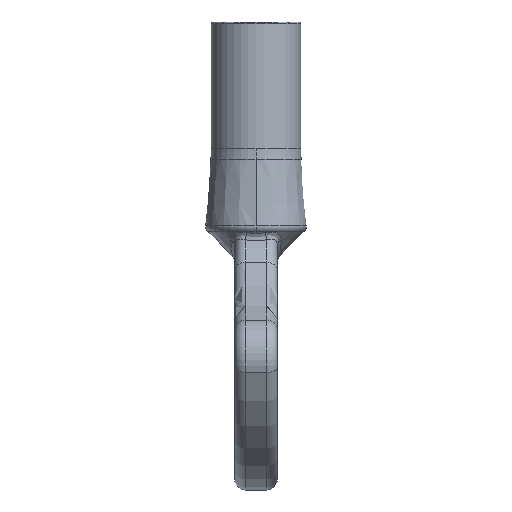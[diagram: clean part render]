
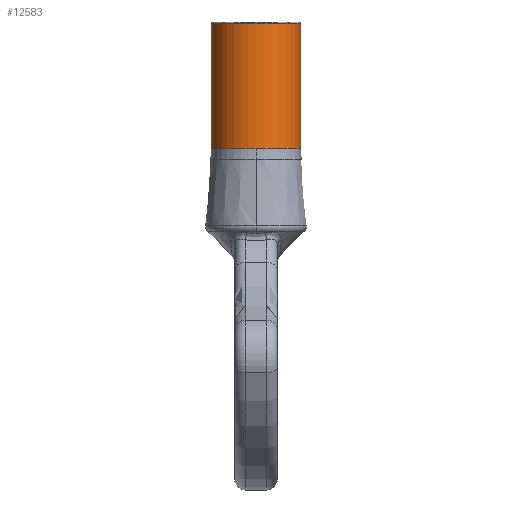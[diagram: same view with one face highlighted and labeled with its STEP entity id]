
A CAD part, front view. The second image highlights one B-rep face of the part: STEP entity #12583.
In plain terms, the highlighted cylindrical face has radius 6.275 mm (diameter 12.55 mm), a partial arc.
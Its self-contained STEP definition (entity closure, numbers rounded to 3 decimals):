
#1028 = CARTESIAN_POINT ( 'NONE',  ( 0., 0., 18.3 ) ) ;
#1086 = EDGE_CURVE ( 'NONE', #2208, #17063, #9069, .T. ) ;
#1106 = ORIENTED_EDGE ( 'NONE', *, *, #3515, .T. ) ;
#1285 = VECTOR ( 'NONE', #14526, 1000. ) ;
#1411 = CARTESIAN_POINT ( 'NONE',  ( -6.275, 0., 0.774 ) ) ;
#1870 = FACE_OUTER_BOUND ( 'NONE', #14132, .T. ) ;
#2208 = VERTEX_POINT ( 'NONE', #14553 ) ;
#3066 = ORIENTED_EDGE ( 'NONE', *, *, #1086, .T. ) ;
#3093 = CARTESIAN_POINT ( 'NONE',  ( 0., 0., 0.774 ) ) ;
#3515 = EDGE_CURVE ( 'NONE', #14799, #10246, #6732, .T. ) ;
#4007 = CARTESIAN_POINT ( 'NONE',  ( 0., 0., 0.774 ) ) ;
#5378 = DIRECTION ( 'NONE',  ( 0., 0., -1. ) ) ;
#6254 = ORIENTED_EDGE ( 'NONE', *, *, #6940, .T. ) ;
#6509 = ORIENTED_EDGE ( 'NONE', *, *, #13315, .F. ) ;
#6650 = CIRCLE ( 'NONE', #13376, 6.275 ) ;
#6732 = LINE ( 'NONE', #14335, #1285 ) ;
#6940 = EDGE_CURVE ( 'NONE', #19129, #14799, #9602, .T. ) ;
#7550 = VECTOR ( 'NONE', #9983, 1000. ) ;
#9069 = CIRCLE ( 'NONE', #18410, 6.275 ) ;
#9229 = DIRECTION ( 'NONE',  ( 0., 0., 1. ) ) ;
#9602 = CIRCLE ( 'NONE', #19441, 6.275 ) ;
#9983 = DIRECTION ( 'NONE',  ( 0., 0., -1. ) ) ;
#10219 = DIRECTION ( 'NONE',  ( 0., 1., 0. ) ) ;
#10246 = VERTEX_POINT ( 'NONE', #1411 ) ;
#10278 = DIRECTION ( 'NONE',  ( 0., 0., -1. ) ) ;
#11041 = EDGE_CURVE ( 'NONE', #10246, #2208, #6650, .T. ) ;
#11385 = LINE ( 'NONE', #16934, #7550 ) ;
#11435 = CARTESIAN_POINT ( 'NONE',  ( 0., 0., 18.5 ) ) ;
#11663 = DIRECTION ( 'NONE',  ( 1., 0., 0. ) ) ;
#12020 = AXIS2_PLACEMENT_3D ( 'NONE', #11435, #5378, #16050 ) ;
#12583 = ADVANCED_FACE ( 'NONE', ( #1870 ), #16622, .T. ) ;
#12907 = CARTESIAN_POINT ( 'NONE',  ( -6.275, 0., 18.3 ) ) ;
#13315 = EDGE_CURVE ( 'NONE', #19129, #17063, #11385, .T. ) ;
#13376 = AXIS2_PLACEMENT_3D ( 'NONE', #4007, #14775, #10219 ) ;
#14132 = EDGE_LOOP ( 'NONE', ( #6509, #6254, #1106, #18878, #3066 ) ) ;
#14222 = CARTESIAN_POINT ( 'NONE',  ( 6.275, 0., 0.774 ) ) ;
#14335 = CARTESIAN_POINT ( 'NONE',  ( -6.275, 0., 18.5 ) ) ;
#14526 = DIRECTION ( 'NONE',  ( 0., 0., -1. ) ) ;
#14553 = CARTESIAN_POINT ( 'NONE',  ( 0., -6.275, 0.774 ) ) ;
#14775 = DIRECTION ( 'NONE',  ( 0., 0., 1. ) ) ;
#14799 = VERTEX_POINT ( 'NONE', #12907 ) ;
#16050 = DIRECTION ( 'NONE',  ( -1., 0., 0. ) ) ;
#16622 = CYLINDRICAL_SURFACE ( 'NONE', #12020, 6.275 ) ;
#16907 = DIRECTION ( 'NONE',  ( 0., 1., 0. ) ) ;
#16934 = CARTESIAN_POINT ( 'NONE',  ( 6.275, 0., 18.5 ) ) ;
#17063 = VERTEX_POINT ( 'NONE', #14222 ) ;
#17883 = CARTESIAN_POINT ( 'NONE',  ( 6.275, 0., 18.3 ) ) ;
#18410 = AXIS2_PLACEMENT_3D ( 'NONE', #3093, #9229, #16907 ) ;
#18878 = ORIENTED_EDGE ( 'NONE', *, *, #11041, .T. ) ;
#19129 = VERTEX_POINT ( 'NONE', #17883 ) ;
#19441 = AXIS2_PLACEMENT_3D ( 'NONE', #1028, #10278, #11663 ) ;
